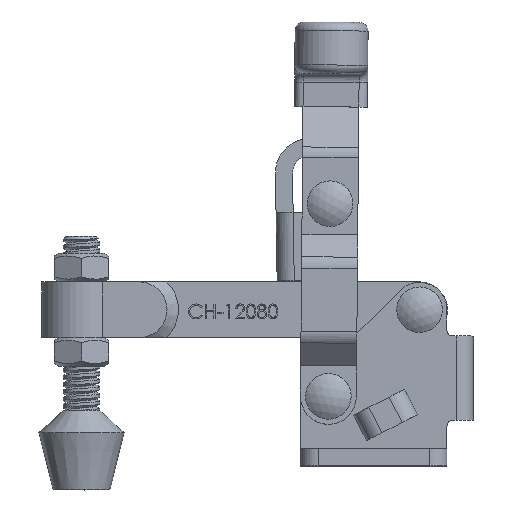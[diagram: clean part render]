
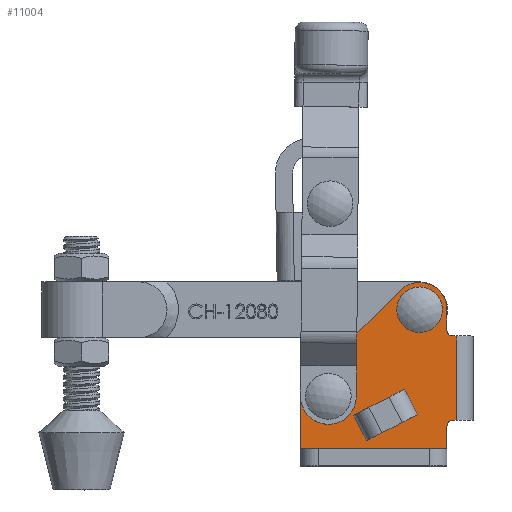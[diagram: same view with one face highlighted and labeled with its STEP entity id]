
A CAD part, top view. The second image highlights one B-rep face of the part: STEP entity #11004.
In plain terms, the highlighted planar face has unit normal (0, 0, 1).
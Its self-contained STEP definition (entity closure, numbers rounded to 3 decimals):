
#818=FACE_BOUND('',#1790,.T.);
#819=FACE_BOUND('',#1791,.T.);
#820=FACE_BOUND('',#1792,.T.);
#895=PLANE('',#11842);
#1171=FACE_OUTER_BOUND('',#1789,.T.);
#1789=EDGE_LOOP('',(#7510,#7511,#7512,#7513,#7514,#7515,#7516,#7517,#7518,
#7519,#7520,#7521,#7522,#7523));
#1790=EDGE_LOOP('',(#7524,#7525));
#1791=EDGE_LOOP('',(#7526,#7527));
#1792=EDGE_LOOP('',(#7528,#7529,#7530,#7531));
#2488=LINE('',#15045,#3421);
#2489=LINE('',#15047,#3422);
#2490=LINE('',#15051,#3423);
#2491=LINE('',#15053,#3424);
#2492=LINE('',#15055,#3425);
#2493=LINE('',#15059,#3426);
#2494=LINE('',#15063,#3427);
#2495=LINE('',#15067,#3428);
#2496=LINE('',#15070,#3429);
#2497=LINE('',#15073,#3430);
#2498=LINE('',#15075,#3431);
#2499=LINE('',#15077,#3432);
#2500=LINE('',#15078,#3433);
#3421=VECTOR('',#12631,1000.);
#3422=VECTOR('',#12632,1000.);
#3423=VECTOR('',#12635,1000.);
#3424=VECTOR('',#12636,1000.);
#3425=VECTOR('',#12637,1000.);
#3426=VECTOR('',#12640,1000.);
#3427=VECTOR('',#12643,1000.);
#3428=VECTOR('',#12646,1000.);
#3429=VECTOR('',#12649,1000.);
#3430=VECTOR('',#12650,1000.);
#3431=VECTOR('',#12651,1000.);
#3432=VECTOR('',#12652,1000.);
#3433=VECTOR('',#12653,1000.);
#4350=CIRCLE('',#11823,2.);
#4353=CIRCLE('',#11826,2.);
#4354=CIRCLE('',#11828,2.);
#4357=CIRCLE('',#11831,2.);
#4366=CIRCLE('',#11843,1.);
#4367=CIRCLE('',#11844,1.);
#4368=CIRCLE('',#11845,4.8);
#4369=CIRCLE('',#11846,5.5);
#4370=CIRCLE('',#11847,3.);
#4649=VERTEX_POINT('',#15003);
#4650=VERTEX_POINT('',#15004);
#4653=VERTEX_POINT('',#15013);
#4654=VERTEX_POINT('',#15014);
#4665=VERTEX_POINT('',#15043);
#4666=VERTEX_POINT('',#15044);
#4667=VERTEX_POINT('',#15046);
#4668=VERTEX_POINT('',#15048);
#4669=VERTEX_POINT('',#15050);
#4670=VERTEX_POINT('',#15052);
#4671=VERTEX_POINT('',#15054);
#4672=VERTEX_POINT('',#15056);
#4673=VERTEX_POINT('',#15058);
#4674=VERTEX_POINT('',#15060);
#4675=VERTEX_POINT('',#15062);
#4676=VERTEX_POINT('',#15064);
#4677=VERTEX_POINT('',#15066);
#4678=VERTEX_POINT('',#15068);
#4679=VERTEX_POINT('',#15071);
#4680=VERTEX_POINT('',#15072);
#4681=VERTEX_POINT('',#15074);
#4682=VERTEX_POINT('',#15076);
#5790=EDGE_CURVE('',#4649,#4650,#4350,.T.);
#5794=EDGE_CURVE('',#4650,#4649,#4353,.T.);
#5795=EDGE_CURVE('',#4653,#4654,#4354,.T.);
#5799=EDGE_CURVE('',#4654,#4653,#4357,.T.);
#5810=EDGE_CURVE('',#4665,#4666,#2488,.T.);
#5811=EDGE_CURVE('',#4665,#4667,#2489,.T.);
#5812=EDGE_CURVE('',#4667,#4668,#4366,.T.);
#5813=EDGE_CURVE('',#4668,#4669,#2490,.T.);
#5814=EDGE_CURVE('',#4669,#4670,#2491,.T.);
#5815=EDGE_CURVE('',#4670,#4671,#2492,.T.);
#5816=EDGE_CURVE('',#4671,#4672,#4367,.T.);
#5817=EDGE_CURVE('',#4672,#4673,#2493,.T.);
#5818=EDGE_CURVE('',#4673,#4674,#4368,.T.);
#5819=EDGE_CURVE('',#4674,#4675,#2494,.T.);
#5820=EDGE_CURVE('',#4675,#4676,#4369,.T.);
#5821=EDGE_CURVE('',#4676,#4677,#2495,.T.);
#5822=EDGE_CURVE('',#4677,#4678,#4370,.T.);
#5823=EDGE_CURVE('',#4678,#4666,#2496,.T.);
#5824=EDGE_CURVE('',#4679,#4680,#2497,.T.);
#5825=EDGE_CURVE('',#4681,#4679,#2498,.T.);
#5826=EDGE_CURVE('',#4682,#4681,#2499,.T.);
#5827=EDGE_CURVE('',#4680,#4682,#2500,.T.);
#7510=ORIENTED_EDGE('',*,*,#5810,.F.);
#7511=ORIENTED_EDGE('',*,*,#5811,.T.);
#7512=ORIENTED_EDGE('',*,*,#5812,.T.);
#7513=ORIENTED_EDGE('',*,*,#5813,.T.);
#7514=ORIENTED_EDGE('',*,*,#5814,.T.);
#7515=ORIENTED_EDGE('',*,*,#5815,.T.);
#7516=ORIENTED_EDGE('',*,*,#5816,.T.);
#7517=ORIENTED_EDGE('',*,*,#5817,.T.);
#7518=ORIENTED_EDGE('',*,*,#5818,.T.);
#7519=ORIENTED_EDGE('',*,*,#5819,.T.);
#7520=ORIENTED_EDGE('',*,*,#5820,.T.);
#7521=ORIENTED_EDGE('',*,*,#5821,.T.);
#7522=ORIENTED_EDGE('',*,*,#5822,.T.);
#7523=ORIENTED_EDGE('',*,*,#5823,.T.);
#7524=ORIENTED_EDGE('',*,*,#5795,.F.);
#7525=ORIENTED_EDGE('',*,*,#5799,.F.);
#7526=ORIENTED_EDGE('',*,*,#5790,.F.);
#7527=ORIENTED_EDGE('',*,*,#5794,.F.);
#7528=ORIENTED_EDGE('',*,*,#5824,.F.);
#7529=ORIENTED_EDGE('',*,*,#5825,.F.);
#7530=ORIENTED_EDGE('',*,*,#5826,.F.);
#7531=ORIENTED_EDGE('',*,*,#5827,.F.);
#11004=ADVANCED_FACE('',(#1171,#818,#819,#820),#895,.F.);
#11823=AXIS2_PLACEMENT_3D('',#15005,#12587,#12588);
#11826=AXIS2_PLACEMENT_3D('',#15011,#12594,#12595);
#11828=AXIS2_PLACEMENT_3D('',#15015,#12598,#12599);
#11831=AXIS2_PLACEMENT_3D('',#15021,#12605,#12606);
#11842=AXIS2_PLACEMENT_3D('',#15042,#12629,#12630);
#11843=AXIS2_PLACEMENT_3D('',#15049,#12633,#12634);
#11844=AXIS2_PLACEMENT_3D('',#15057,#12638,#12639);
#11845=AXIS2_PLACEMENT_3D('',#15061,#12641,#12642);
#11846=AXIS2_PLACEMENT_3D('',#15065,#12644,#12645);
#11847=AXIS2_PLACEMENT_3D('',#15069,#12647,#12648);
#12587=DIRECTION('center_axis',(0.,0.,1.));
#12588=DIRECTION('ref_axis',(1.,0.,0.));
#12594=DIRECTION('center_axis',(0.,0.,1.));
#12595=DIRECTION('ref_axis',(1.,0.,0.));
#12598=DIRECTION('center_axis',(0.,0.,1.));
#12599=DIRECTION('ref_axis',(1.,0.,0.));
#12605=DIRECTION('center_axis',(0.,0.,1.));
#12606=DIRECTION('ref_axis',(1.,0.,0.));
#12629=DIRECTION('center_axis',(0.,0.,-1.));
#12630=DIRECTION('ref_axis',(-1.,0.,0.));
#12631=DIRECTION('',(-1.,0.,0.));
#12632=DIRECTION('',(0.,1.,0.));
#12633=DIRECTION('center_axis',(0.,0.,-1.));
#12634=DIRECTION('ref_axis',(-1.,0.,0.));
#12635=DIRECTION('',(1.,0.,0.));
#12636=DIRECTION('',(0.,1.,0.));
#12637=DIRECTION('',(-1.,0.,0.));
#12638=DIRECTION('center_axis',(0.,0.,-1.));
#12639=DIRECTION('ref_axis',(-1.,0.,0.));
#12640=DIRECTION('',(0.,1.,0.));
#12641=DIRECTION('center_axis',(0.,0.,1.));
#12642=DIRECTION('ref_axis',(1.,0.,0.));
#12643=DIRECTION('',(-0.707,-0.707,0.));
#12644=DIRECTION('center_axis',(0.,0.,-1.));
#12645=DIRECTION('ref_axis',(1.,0.,0.));
#12646=DIRECTION('',(-1.,0.,0.));
#12647=DIRECTION('center_axis',(0.,0.,1.));
#12648=DIRECTION('ref_axis',(-1.,0.,0.));
#12649=DIRECTION('',(0.,-1.,0.));
#12650=DIRECTION('',(0.454,-0.891,0.));
#12651=DIRECTION('',(-0.891,-0.454,0.));
#12652=DIRECTION('',(-0.454,0.891,0.));
#12653=DIRECTION('',(0.891,0.454,0.));
#15003=CARTESIAN_POINT('',(-6.8,27.4,12.));
#15004=CARTESIAN_POINT('',(-2.8,27.4,12.));
#15005=CARTESIAN_POINT('Origin',(-4.8,27.4,12.));
#15011=CARTESIAN_POINT('Origin',(-4.8,27.4,12.));
#15013=CARTESIAN_POINT('',(-22.8,12.2,12.));
#15014=CARTESIAN_POINT('',(-18.8,12.2,12.));
#15015=CARTESIAN_POINT('Origin',(-20.8,12.2,12.));
#15021=CARTESIAN_POINT('Origin',(-20.8,12.2,12.));
#15042=CARTESIAN_POINT('Origin',(1.,7.,12.));
#15043=CARTESIAN_POINT('',(0.,3.,12.));
#15044=CARTESIAN_POINT('',(-25.6,3.,12.));
#15045=CARTESIAN_POINT('',(-25.6,3.,12.));
#15046=CARTESIAN_POINT('',(0.,7.,12.));
#15047=CARTESIAN_POINT('',(0.,0.,12.));
#15048=CARTESIAN_POINT('',(1.,8.,12.));
#15049=CARTESIAN_POINT('Origin',(1.,7.,12.));
#15050=CARTESIAN_POINT('',(1.6,8.,12.));
#15051=CARTESIAN_POINT('',(1.,8.,12.));
#15052=CARTESIAN_POINT('',(1.6,22.8,12.));
#15053=CARTESIAN_POINT('',(1.6,7.,12.));
#15054=CARTESIAN_POINT('',(1.,22.8,12.));
#15055=CARTESIAN_POINT('',(4.6,22.8,12.));
#15056=CARTESIAN_POINT('',(0.,23.8,12.));
#15057=CARTESIAN_POINT('Origin',(1.,23.8,12.));
#15058=CARTESIAN_POINT('',(0.,27.4,12.));
#15059=CARTESIAN_POINT('',(0.,27.4,12.));
#15060=CARTESIAN_POINT('',(-8.545,30.403,12.));
#15061=CARTESIAN_POINT('Origin',(-4.8,27.4,12.));
#15062=CARTESIAN_POINT('',(-15.437,23.511,12.));
#15063=CARTESIAN_POINT('',(-15.437,23.511,12.));
#15064=CARTESIAN_POINT('',(-19.326,21.9,12.));
#15065=CARTESIAN_POINT('Origin',(-19.326,27.4,12.));
#15066=CARTESIAN_POINT('',(-22.6,21.9,12.));
#15067=CARTESIAN_POINT('',(-22.6,21.9,12.));
#15068=CARTESIAN_POINT('',(-25.6,18.9,12.));
#15069=CARTESIAN_POINT('Origin',(-22.6,18.9,12.));
#15070=CARTESIAN_POINT('',(-25.6,0.,12.));
#15071=CARTESIAN_POINT('',(-16.359,8.912,12.));
#15072=CARTESIAN_POINT('',(-14.089,4.457,12.));
#15073=CARTESIAN_POINT('',(-16.359,8.912,12.));
#15074=CARTESIAN_POINT('',(-7.449,13.452,12.));
#15075=CARTESIAN_POINT('',(-16.359,8.912,12.));
#15076=CARTESIAN_POINT('',(-5.179,8.997,12.));
#15077=CARTESIAN_POINT('',(-7.449,13.452,12.));
#15078=CARTESIAN_POINT('',(-14.089,4.457,12.));
